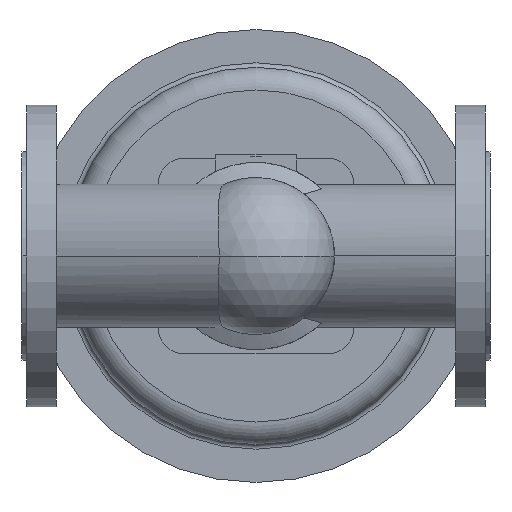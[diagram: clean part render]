
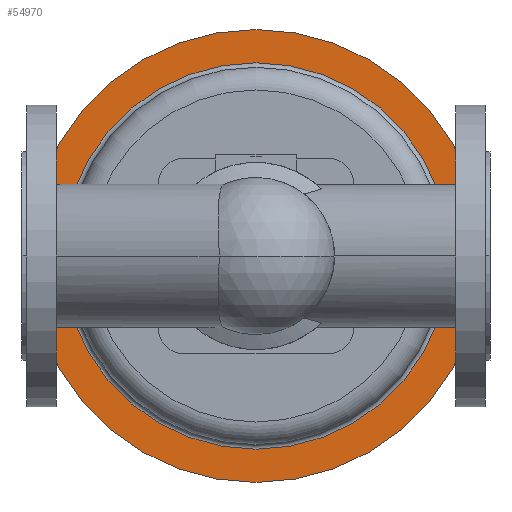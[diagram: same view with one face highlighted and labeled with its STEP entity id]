
A CAD part, front view. The second image highlights one B-rep face of the part: STEP entity #54970.
In plain terms, the highlighted planar face has unit normal (0, -1, 0).
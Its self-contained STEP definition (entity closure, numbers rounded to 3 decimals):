
#54440=CARTESIAN_POINT('',(27.,690.5,0.));
#54450=VERTEX_POINT('',#54440);
#54480=CARTESIAN_POINT('',(155.,690.5,0.));
#54490=DIRECTION('',(0.,1.,0.));
#54500=DIRECTION('',(1.,0.,0.));
#54510=AXIS2_PLACEMENT_3D('',#54480,#54490,#54500);
#54520=CIRCLE('',#54510,128.);
#54530=CARTESIAN_POINT('',(283.,690.5,0.));
#54540=VERTEX_POINT('',#54530);
#54550=EDGE_CURVE('',#54450,#54540,#54520,.T.);
#54680=CARTESIAN_POINT('',(294.,690.5,0.));
#54690=DIRECTION('',(0.,-1.,0.));
#54700=DIRECTION('',(-1.,0.,0.));
#54710=AXIS2_PLACEMENT_3D('',#54680,#54690,#54700);
#54720=PLANE('',#54710);
#54730=CARTESIAN_POINT('',(155.,690.5,0.));
#54740=DIRECTION('',(0.,1.,0.));
#54750=DIRECTION('',(1.,0.,0.));
#54760=AXIS2_PLACEMENT_3D('',#54730,#54740,#54750);
#54770=CIRCLE('',#54760,150.);
#54780=CARTESIAN_POINT('',(5.,690.5,0.));
#54790=VERTEX_POINT('',#54780);
#54800=CARTESIAN_POINT('',(305.,690.5,0.));
#54810=VERTEX_POINT('',#54800);
#54820=EDGE_CURVE('',#54790,#54810,#54770,.T.);
#54830=ORIENTED_EDGE('',*,*,#54820,.F.);
#54840=EDGE_CURVE('',#54810,#54790,#54770,.T.);
#54850=ORIENTED_EDGE('',*,*,#54840,.F.);
#54860=EDGE_LOOP('',(#54850,#54830));
#54870=FACE_OUTER_BOUND('',#54860,.T.);
#54880=ORIENTED_EDGE('',*,*,#54550,.T.);
#54890=CARTESIAN_POINT('',(155.,690.5,-128.));
#54900=VERTEX_POINT('',#54890);
#54910=EDGE_CURVE('',#54900,#54450,#54520,.T.);
#54920=ORIENTED_EDGE('',*,*,#54910,.T.);
#54930=EDGE_CURVE('',#54540,#54900,#54520,.T.);
#54940=ORIENTED_EDGE('',*,*,#54930,.T.);
#54950=EDGE_LOOP('',(#54940,#54920,#54880));
#54960=FACE_BOUND('',#54950,.T.);
#54970=ADVANCED_FACE('',(#54870,#54960),#54720,.T.);
